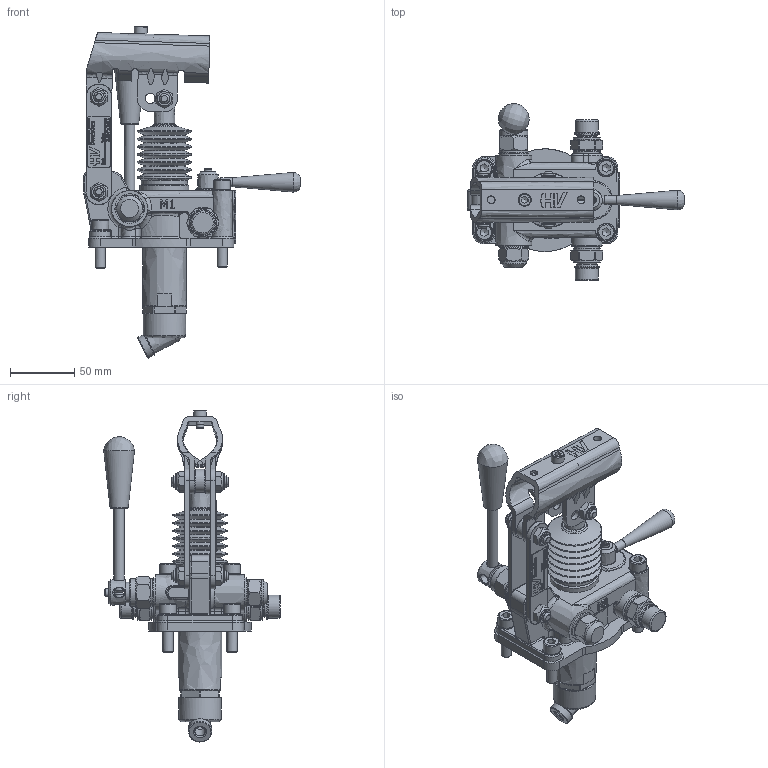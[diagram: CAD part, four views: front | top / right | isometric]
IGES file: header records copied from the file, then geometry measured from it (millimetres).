
Global section: file name: No Iges File Name specified; native system: Autodesk Inventor 2013; preprocessor: AutoDesk Inventor Iges Exporter R2013; author: christian.scardovi; date: 20240229.153553; units: millimetre
Bounding box: 169 x 137.5 x 258.54 mm (x, y, z)
Surface area: 145728.4 mm2
Topology: 2 solids, 3 shells, 1661 faces, 4184 edges, 2648 vertices
Faces by surface type: bspline 1661
